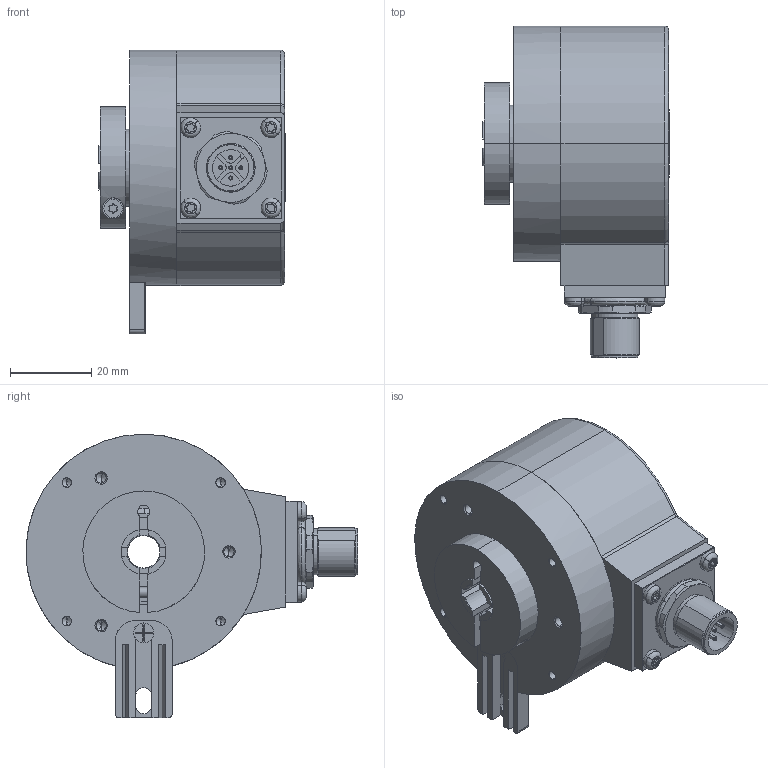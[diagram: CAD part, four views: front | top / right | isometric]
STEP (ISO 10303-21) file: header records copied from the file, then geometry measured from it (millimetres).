
FILE_DESCRIPTION (( 'STEP AP203' ), '1' );
FILE_NAME ('K58I.OXX.XXXXX.XH11508.6XRC3.step', '2025-12-08T12:39:51', ( '' ), ( '' ), 'SwSTEP 2.0', 'SolidWorks 2021', '' );
FILE_SCHEMA (( 'CONFIG_CONTROL_DESIGN' ));
Length unit declared in the file: millimetre
Products named in the file (1): K58I.OXX.XXXXX.XH11508.6XRC3
Bounding box: 46 x 81.8 x 69.9 mm (x, y, z)
Surface area: 33260.4 mm2 (no closed solid volume)
Topology: 0 solids, 13 shells, 477 faces, 1184 edges, 752 vertices
Faces by surface type: cylinder 225, plane 160, cone 61, bspline 24, torus 7
Entity records: 16042 total; most frequent: CARTESIAN_POINT 4501, DIRECTION 2524, ORIENTED_EDGE 2324, EDGE_CURVE 1170, AXIS2_PLACEMENT_3D 999, VERTEX_POINT 752, CIRCLE 545, EDGE_LOOP 534
